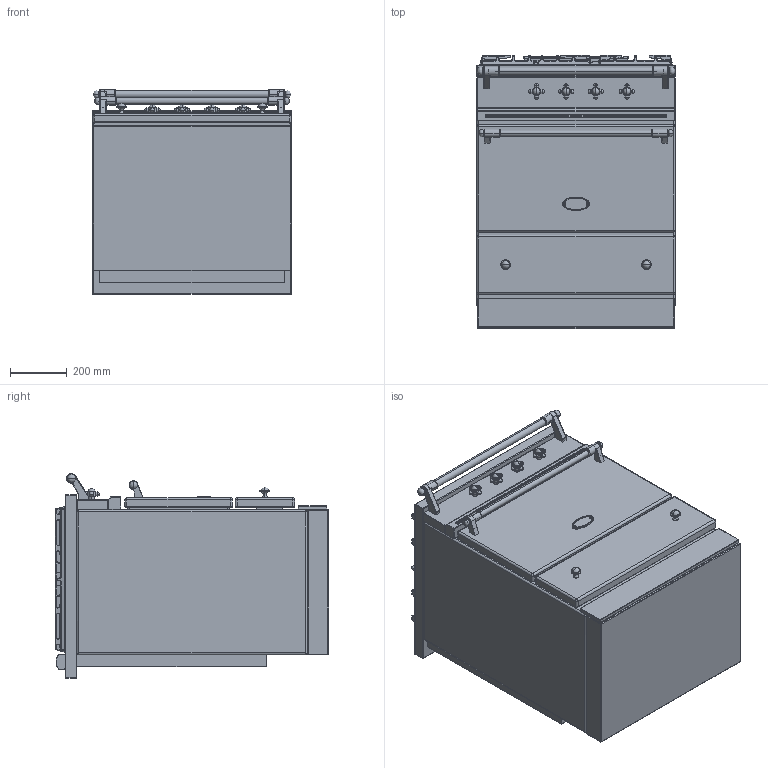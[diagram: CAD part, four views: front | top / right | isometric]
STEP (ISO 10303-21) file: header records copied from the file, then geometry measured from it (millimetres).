
FILE_DESCRIPTION((''),'2;1');
FILE_NAME('LG731_ASM','2021-12-01T16:24:49',('j.cheno'),(''),'CREO PARAMETRIC BY PTC INC, 2017260','CREO PARAMETRIC BY PTC INC, 2017260','');
FILE_SCHEMA(('AP203_CONFIGURATION_CONTROLLED_3D_DESIGN_OF_MECHANICAL_PARTS_AND_ASSEMBLIES_MIM_LF { 1 0 10303 403 2 1 2 }'));
Products named in the file (25): BASE_EXPORT_CORMATIN_3F; 65650003; 65650004; 6531940; 6531941; 6538399; 1931942; 65080022_AF0; 6531942_ASM; 6531943; 65049009; 65650001; BASE_EXPORT_CORMATIN_3F_ASM; TABLE_700_CLASSIQUE_3F; 5KW; 1_5KW; 3KW; 6537024; 65149005; 90000487_ASM; 6537025; 90000488_ASM; CHEMINEE_2020_LG371_EXPORT_STEP; TABLE_700_CLASSIQUE_3F_ASM; LG731_ASM
Assembly tree (36 placements, depth 4):
  LG731_ASM
    BASE_EXPORT_CORMATIN_3F_ASM
      BASE_EXPORT_CORMATIN_3F
      65650003
      65650004
      6531940
      6531941
      6531942_ASM  x4
        6538399
        1931942
        65080022_AF0
      6531943  x2
      65049009
      65650001
    TABLE_700_CLASSIQUE_3F_ASM
      TABLE_700_CLASSIQUE_3F
      5KW
      1_5KW
      3KW
      90000487_ASM
        6537024
        65149005  x4
      90000488_ASM  x2
        6537025
        65149005
      CHEMINEE_2020_LG371_EXPORT_STEP
Bounding box: 700 x 965 x 724 mm (x, y, z)
Volume: 372012484.1 mm3; surface area: 6485432.2 mm2
Topology: 47 solids, 53 shells, 4910 faces, 12479 edges, 7643 vertices
Faces by surface type: plane 1866, cylinder 1503, bspline 796, cone 244, torus 182, sphere 177, extrusion 134, revolution 8
Entity records: 139903 total; most frequent: CARTESIAN_POINT 45709, ORIENTED_EDGE 15756, DIRECTION 13864, EDGE_CURVE 7888, VERTEX_POINT 4843, PRESENTATION_STYLE_ASSIGNMENT 4788, AXIS2_PLACEMENT_3D 4781, STYLED_ITEM 4765
